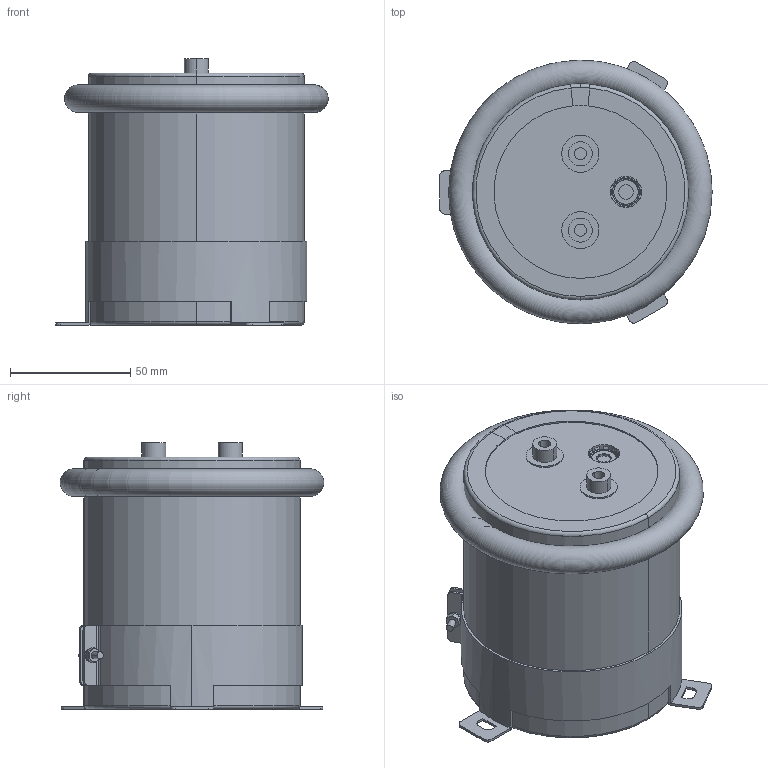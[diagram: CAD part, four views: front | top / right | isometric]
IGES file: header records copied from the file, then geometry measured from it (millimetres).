
Start section: 3D InterOp IGES (v. 2019 1.0.2), Spatial Corp. Copyright (c) 1999-2017.
Global section: file name: 90x105_Screw.igs; native system: Spatial Corp.; preprocessor: 3D InterOp ACIS/IGES; author: Noname; organization: Noname; date: 20220314.170037; units: millimetre
Bounding box: 113.35 x 109.7 x 111 mm (x, y, z)
Volume: 1012668.8 mm3; surface area: 269377.2 mm2
Topology: 9 solids, 9 shells, 352 faces, 953 edges, 591 vertices
Faces by surface type: plane 112, cylinder 110, torus 90, cone 38, sphere 2
